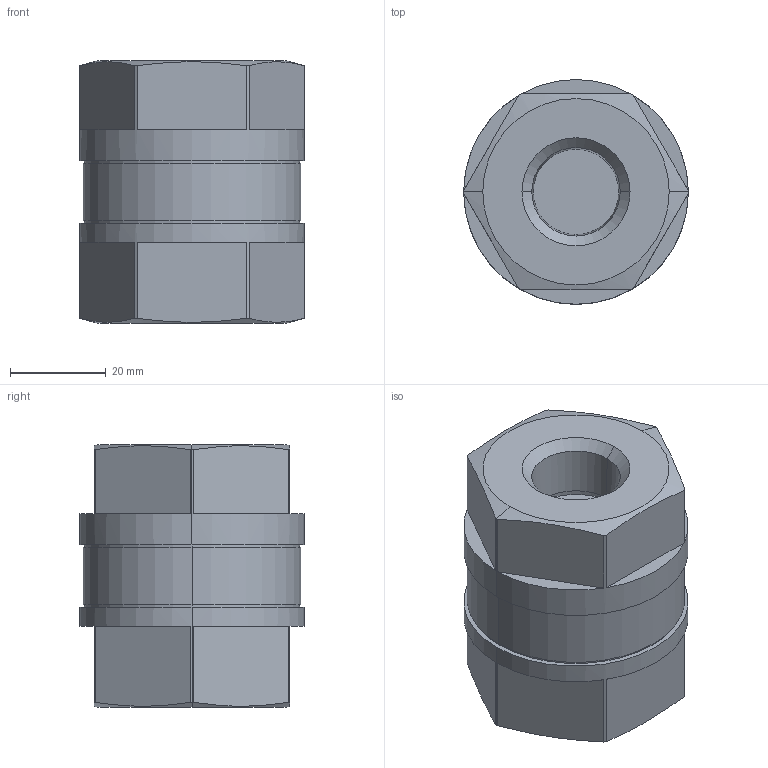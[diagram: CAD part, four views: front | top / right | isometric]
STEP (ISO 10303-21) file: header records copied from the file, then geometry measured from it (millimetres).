
FILE_DESCRIPTION( (''), '2;1');
FILE_NAME ('PC1276.4340.15A_13365.stp','2023-07-04T16:31:05',(''),(''),'spGate 19.8.4 (****-****-****-****)','','');
FILE_SCHEMA (('AUTOMOTIVE_DESIGN'));
Length unit declared in the file: millimetre
Bounding box: 47 x 47 x 55 mm (x, y, z)
Volume: 76127.6 mm3; surface area: 13706.3 mm2
Topology: 1 solids, 1 shells, 68 faces, 158 edges, 100 vertices
Faces by surface type: plane 34, bspline 18, cylinder 16
Entity records: 3455 total; most frequent: CARTESIAN_POINT 690, ORIENTED_EDGE 316, DIRECTION 288, COLOUR_RGB 227, PRESENTATION_STYLE_ASSIGNMENT 227, STYLED_ITEM 227, EDGE_CURVE 158, DRAUGHTING_PRE_DEFINED_CURVE_FONT 158
